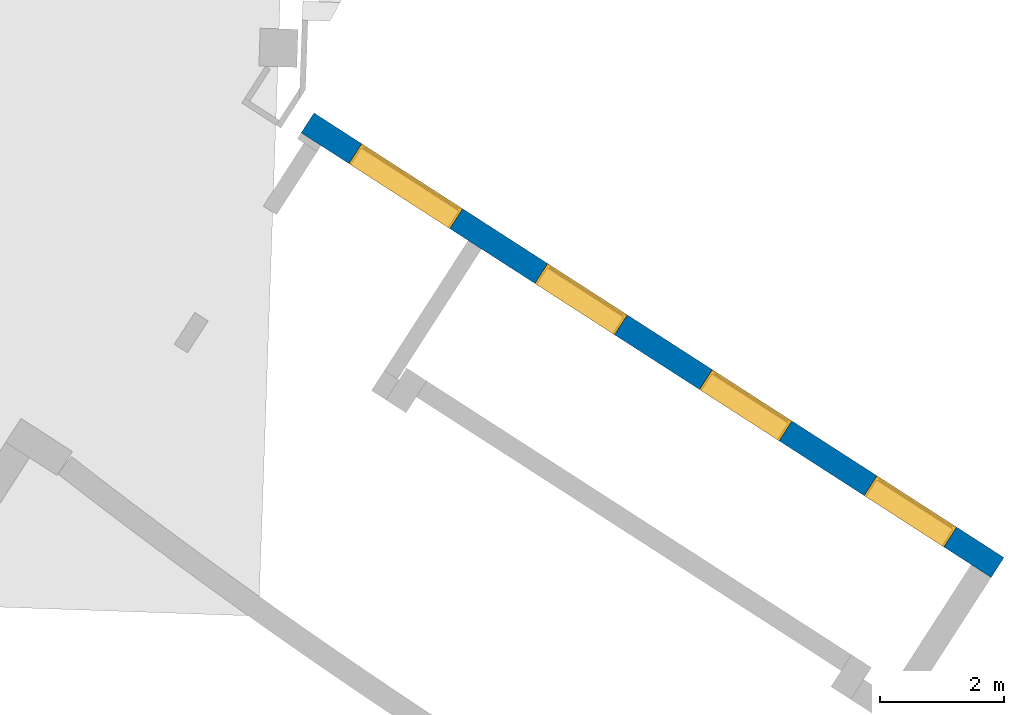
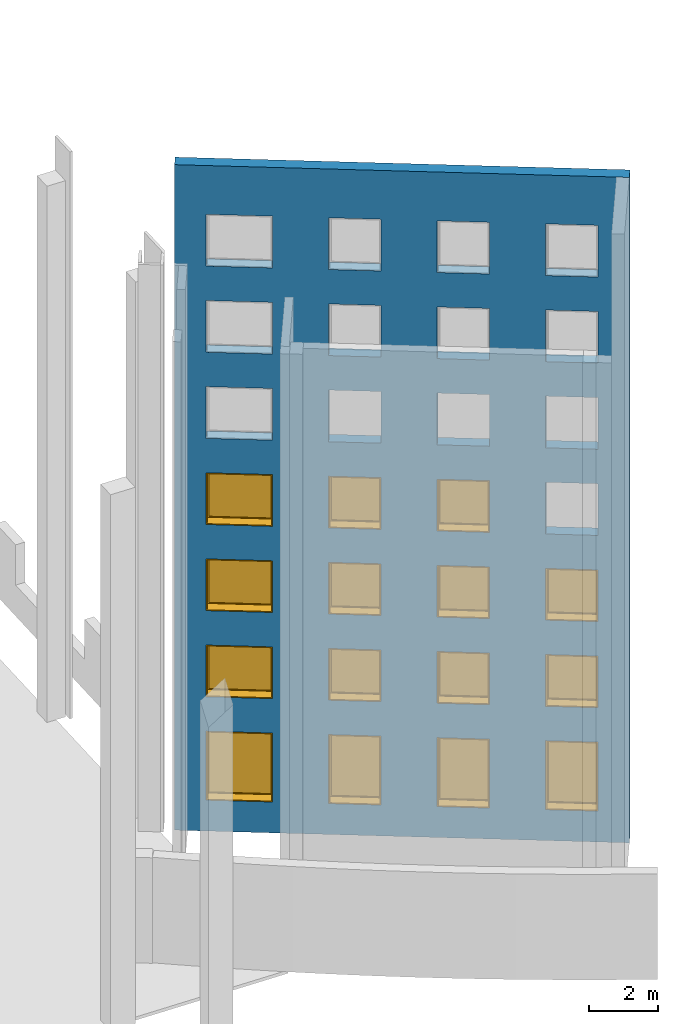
"""IFC2X3 building model written with IfcOpenShell, lengths in feet."""

from ifc_helpers import new_model, entity, si_unit, converted_unit, derived_unit, direction, frame, frame_2d, origin, place, context, subcontext, project, spatial, polyline, rectangle, outline, extrude, source, transform, mapped, material, material_list, layer, layer_set, layer_usage, type_object, type_shapes, element, fill, save


model = new_model("IFC2X3")

# Units and contexts
model_context = context("Model", 3, precision=0.0001, world=origin(), true_north=direction((0.999390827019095, 0.0348994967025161)))
body_context = subcontext(model_context, "Body", "Model", "MODEL_VIEW")
ifc_project = project(units=[converted_unit("LENGTHUNIT", "FOOT", entity("IfcRatioMeasure", 0.3048), si_unit("LENGTHUNIT", "METRE"), dimensions=[1, 0, 0, 0, 0, 0, 0]), converted_unit("AREAUNIT", "SQUARE FOOT", entity("IfcRatioMeasure", 0.09290304), si_unit("AREAUNIT", "SQUARE_METRE"), dimensions=[2, 0, 0, 0, 0, 0, 0]), converted_unit("VOLUMEUNIT", "CUBIC FOOT", entity("IfcRatioMeasure", 0.028316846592), si_unit("VOLUMEUNIT", "CUBIC_METRE"), dimensions=[3, 0, 0, 0, 0, 0, 0]), converted_unit("PLANEANGLEUNIT", "DEGREE", entity("IfcRatioMeasure", 0.0174532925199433), si_unit("PLANEANGLEUNIT", "RADIAN"), dimensions=[0, 0, 0, 0, 0, 0, 0]), si_unit("MASSUNIT", "GRAM", prefix="KILO"), si_unit("TIMEUNIT", "SECOND"), si_unit("FREQUENCYUNIT", "HERTZ"), si_unit("THERMODYNAMICTEMPERATUREUNIT", "DEGREE_CELSIUS"), derived_unit("THERMALTRANSMITTANCEUNIT", [(si_unit("MASSUNIT", "GRAM", prefix="KILO"), 1), (si_unit("THERMODYNAMICTEMPERATUREUNIT", "KELVIN"), -1), (si_unit("TIMEUNIT", "SECOND"), -3)]), derived_unit("VOLUMETRICFLOWRATEUNIT", [(si_unit("LENGTHUNIT", "METRE"), 3), (si_unit("TIMEUNIT", "SECOND"), -1)]), si_unit("ELECTRICCURRENTUNIT", "AMPERE"), si_unit("ELECTRICVOLTAGEUNIT", "VOLT"), si_unit("POWERUNIT", "WATT"), si_unit("FORCEUNIT", "NEWTON"), si_unit("ILLUMINANCEUNIT", "LUX"), si_unit("LUMINOUSFLUXUNIT", "LUMEN"), si_unit("LUMINOUSINTENSITYUNIT", "CANDELA"), derived_unit("USERDEFINED", [(si_unit("MASSUNIT", "GRAM", prefix="KILO"), -1), (si_unit("LENGTHUNIT", "METRE"), -2), (si_unit("TIMEUNIT", "SECOND"), 3), (si_unit("LUMINOUSFLUXUNIT", "LUMEN"), 1)]), derived_unit("LINEARVELOCITYUNIT", [(si_unit("LENGTHUNIT", "METRE"), 1), (si_unit("TIMEUNIT", "SECOND"), -1)]), si_unit("PRESSUREUNIT", "PASCAL"), derived_unit("USERDEFINED", [(si_unit("LENGTHUNIT", "METRE"), -2), (si_unit("MASSUNIT", "GRAM", prefix="KILO"), 1), (si_unit("TIMEUNIT", "SECOND"), -2)])], contexts=[model_context])

# Site, building, storey
site_placement = place(None, frame((892.518771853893, 322.38689265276, 0.00393700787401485), z_axis=(0.0, 0.0, 1.0), x_axis=(0.0348994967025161, 0.999390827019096, 0.0)))
site = spatial("IfcSite", under=ifc_project, at=site_placement, Name="Default", CompositionType="ELEMENT")
building_placement = place(site_placement, origin())
building = spatial("IfcBuilding", under=site, at=building_placement, CompositionType="ELEMENT")
storey_1_placement = place(building_placement, frame((0.0, 0.0, 544.75)))
storey_1 = spatial("IfcBuildingStorey", under=building, at=storey_1_placement, Name="Exist Garage - Ground Level", CompositionType="ELEMENT", Elevation=544.75)

# Wall, openings, windows
ifc_material_1 = material(Name="Masonry - Brick")
ifc_layer_1 = layer(ifc_material_1, 0.302083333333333)
ifc_material_2 = material(Name="Misc. Air Layers - Air Space")
ifc_layer_2 = layer(ifc_material_2, 0.114583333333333)
ifc_material_3 = material(Name="Concrete - Cast-in-Place Concrete_hatch surface")
ifc_layer_3 = layer(ifc_material_3, 0.833333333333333)
ifc_layer_set = layer_set([ifc_layer_1, ifc_layer_2, ifc_layer_3], Name="Basic Wall:(existing)Exterior - Brick on Conc - 1'-3\"")
ifc_layer_usage = layer_usage(ifc_layer_set, "AXIS2", "NEGATIVE", 0.625)
wall_type = type_object("IfcWallType", Name="Basic Wall:(existing)Exterior - Brick on Conc - 1'-3\"", PredefinedType="STANDARD", material=ifc_layer_set)
wall_placement = place(storey_1_placement, frame((-143.978651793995, 235.094064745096, 0.0), z_axis=(0.0, 0.0, 1.0), x_axis=(-0.512021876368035, -0.858972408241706, 0.0)))
wall = element("IfcWallStandardCase", 1, at=wall_placement, inside=storey_1, type_object=wall_type, material=ifc_layer_usage, Name="Basic Wall:(existing)Exterior - Brick on Conc - 1'-3\"", ObjectType="Basic Wall:(existing)Exterior - Brick on Conc - 1'-3\"", context=body_context, shape_type="SweptSolid", body=[
    extrude(rectangle(XDim=43.3020833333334, YDim=1.25, at=frame_2d((21.6510416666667, -9.43689570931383e-16), x_axis=(-1.0, 0.0))), origin(), (0.0, 0.0, 1.0), 77.25),
])
opening_1_placement = place(wall_placement, frame((3.0, -0.625, 3.58333333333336)))
opening_1 = element("IfcOpeningElement", 2, at=opening_1_placement, cuts=wall, Name="Fixed:6'4\" x 8'0\":1", ObjectType="Opening", context=body_context, shape_type="SweptSolid", body=[
    extrude(rectangle(XDim=8.00000000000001, YDim=6.33333333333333, at=frame_2d((4.00000000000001, 3.16666666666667), x_axis=(-1.0, 0.0))), frame((0.0, 0.0, 0.0), z_axis=(0.0, 1.0, 0.0), x_axis=(0.0, 0.0, 1.0)), (0.0, 0.0, 1.0), 1.25),
])
opening_2_placement = place(wall_placement, frame((14.6666666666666, -0.625000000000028, 3.58333333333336)))
opening_2 = element("IfcOpeningElement", 3, at=opening_2_placement, cuts=wall, Name="Fixed:5'0\" x 8'0\":1", ObjectType="Opening", context=body_context, shape_type="SweptSolid", body=[
    extrude(rectangle(XDim=8.00000000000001, YDim=5.0, at=frame_2d((4.00000000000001, 2.5), x_axis=(-1.0, 0.0))), frame((0.0, 0.0, 0.0), z_axis=(0.0, 1.0, 0.0), x_axis=(0.0, 0.0, 1.0)), (0.0, 0.0, 1.0), 1.25),
])
opening_3_placement = place(wall_placement, frame((25.0, -0.625000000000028, 3.58333333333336)))
opening_3 = element("IfcOpeningElement", 4, at=opening_3_placement, cuts=wall, Name="Fixed:5'0\" x 8'0\":1", ObjectType="Opening", context=body_context, shape_type="SweptSolid", body=[
    extrude(rectangle(XDim=8.00000000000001, YDim=5.0, at=frame_2d((4.00000000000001, 2.5), x_axis=(-1.0, 0.0))), frame((0.0, 0.0, 0.0), z_axis=(0.0, 1.0, 0.0), x_axis=(0.0, 0.0, 1.0)), (0.0, 0.0, 1.0), 1.25),
])
opening_4_placement = place(wall_placement, frame((35.3333333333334, -0.625000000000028, 3.58333333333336)))
opening_4 = element("IfcOpeningElement", 5, at=opening_4_placement, cuts=wall, Name="Fixed:5'0\" x 8'0\":1", ObjectType="Opening", context=body_context, shape_type="SweptSolid", body=[
    extrude(rectangle(XDim=8.00000000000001, YDim=5.0, at=frame_2d((4.00000000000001, 2.5), x_axis=(-1.0, 0.0))), frame((0.0, 0.0, 0.0), z_axis=(0.0, 1.0, 0.0), x_axis=(0.0, 0.0, 1.0)), (0.0, 0.0, 1.0), 1.25),
])
opening_5_placement = place(wall_placement, frame((3.0, -0.625, 15.5833333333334)))
opening_5 = element("IfcOpeningElement", 6, at=opening_5_placement, cuts=wall, Name="Fixed:6'4\" x 6'0\":1", ObjectType="Opening", context=body_context, shape_type="SweptSolid", body=[
    extrude(rectangle(XDim=6.0, YDim=6.33333333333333, at=frame_2d((3.0, 3.16666666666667), x_axis=(-1.0, 0.0))), frame((0.0, 0.0, 0.0), z_axis=(0.0, 1.0, 0.0), x_axis=(0.0, 0.0, 1.0)), (0.0, 0.0, 1.0), 1.25),
])
opening_6_placement = place(wall_placement, frame((14.6666666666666, -0.625000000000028, 15.5833333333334)))
opening_6 = element("IfcOpeningElement", 7, at=opening_6_placement, cuts=wall, Name="Fixed:5'0\" x 6'0\":1", ObjectType="Opening", context=body_context, shape_type="SweptSolid", body=[
    extrude(rectangle(XDim=6.0, YDim=5.0, at=frame_2d((3.0, 2.5), x_axis=(-1.0, 0.0))), frame((0.0, 0.0, 0.0), z_axis=(0.0, 1.0, 0.0), x_axis=(0.0, 0.0, 1.0)), (0.0, 0.0, 1.0), 1.25),
])
opening_7_placement = place(wall_placement, frame((25.0, -0.625000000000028, 15.5833333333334)))
opening_7 = element("IfcOpeningElement", 8, at=opening_7_placement, cuts=wall, Name="Fixed:5'0\" x 6'0\":1", ObjectType="Opening", context=body_context, shape_type="SweptSolid", body=[
    extrude(rectangle(XDim=6.0, YDim=5.0, at=frame_2d((3.0, 2.5), x_axis=(-1.0, 0.0))), frame((0.0, 0.0, 0.0), z_axis=(0.0, 1.0, 0.0), x_axis=(0.0, 0.0, 1.0)), (0.0, 0.0, 1.0), 1.25),
])
opening_8_placement = place(wall_placement, frame((35.3333333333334, -0.625000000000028, 15.5833333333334)))
opening_8 = element("IfcOpeningElement", 9, at=opening_8_placement, cuts=wall, Name="Fixed:5'0\" x 6'0\":1", ObjectType="Opening", context=body_context, shape_type="SweptSolid", body=[
    extrude(rectangle(XDim=6.0, YDim=5.0, at=frame_2d((3.0, 2.5), x_axis=(-1.0, 0.0))), frame((0.0, 0.0, 0.0), z_axis=(0.0, 1.0, 0.0), x_axis=(0.0, 0.0, 1.0)), (0.0, 0.0, 1.0), 1.25),
])
opening_9_placement = place(wall_placement, frame((3.0, -0.625, 25.5833333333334)))
opening_9 = element("IfcOpeningElement", 10, at=opening_9_placement, cuts=wall, Name="Fixed:6'4\" x 6'0\":1", ObjectType="Opening", context=body_context, shape_type="SweptSolid", body=[
    extrude(rectangle(XDim=6.0, YDim=6.33333333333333, at=frame_2d((3.0, 3.16666666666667), x_axis=(-1.0, 0.0))), frame((0.0, 0.0, 0.0), z_axis=(0.0, 1.0, 0.0), x_axis=(0.0, 0.0, 1.0)), (0.0, 0.0, 1.0), 1.25),
])
opening_10_placement = place(wall_placement, frame((14.6666666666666, -0.625000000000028, 25.5833333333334)))
opening_10 = element("IfcOpeningElement", 11, at=opening_10_placement, cuts=wall, Name="Fixed:5'0\" x 6'0\":1", ObjectType="Opening", context=body_context, shape_type="SweptSolid", body=[
    extrude(rectangle(XDim=6.0, YDim=5.0, at=frame_2d((3.0, 2.5), x_axis=(-1.0, 0.0))), frame((0.0, 0.0, 0.0), z_axis=(0.0, 1.0, 0.0), x_axis=(0.0, 0.0, 1.0)), (0.0, 0.0, 1.0), 1.25),
])
opening_11_placement = place(wall_placement, frame((25.0, -0.625000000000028, 25.5833333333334)))
opening_11 = element("IfcOpeningElement", 12, at=opening_11_placement, cuts=wall, Name="Fixed:5'0\" x 6'0\":1", ObjectType="Opening", context=body_context, shape_type="SweptSolid", body=[
    extrude(rectangle(XDim=6.0, YDim=5.0, at=frame_2d((3.0, 2.5), x_axis=(-1.0, 0.0))), frame((0.0, 0.0, 0.0), z_axis=(0.0, 1.0, 0.0), x_axis=(0.0, 0.0, 1.0)), (0.0, 0.0, 1.0), 1.25),
])
opening_12_placement = place(wall_placement, frame((35.3333333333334, -0.625000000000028, 25.5833333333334)))
opening_12 = element("IfcOpeningElement", 13, at=opening_12_placement, cuts=wall, Name="Fixed:5'0\" x 6'0\":1", ObjectType="Opening", context=body_context, shape_type="SweptSolid", body=[
    extrude(rectangle(XDim=6.0, YDim=5.0, at=frame_2d((3.0, 2.5), x_axis=(-1.0, 0.0))), frame((0.0, 0.0, 0.0), z_axis=(0.0, 1.0, 0.0), x_axis=(0.0, 0.0, 1.0)), (0.0, 0.0, 1.0), 1.25),
])
opening_13_placement = place(wall_placement, frame((3.0, -0.625, 35.5833333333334)))
opening_13 = element("IfcOpeningElement", 14, at=opening_13_placement, cuts=wall, Name="Fixed:6'4\" x 6'0\":1", ObjectType="Opening", context=body_context, shape_type="SweptSolid", body=[
    extrude(rectangle(XDim=6.0, YDim=6.33333333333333, at=frame_2d((3.0, 3.16666666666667), x_axis=(-1.0, 0.0))), frame((0.0, 0.0, 0.0), z_axis=(0.0, 1.0, 0.0), x_axis=(0.0, 0.0, 1.0)), (0.0, 0.0, 1.0), 1.25),
])
opening_14_placement = place(wall_placement, frame((14.6666666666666, -0.625000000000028, 35.5833333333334)))
opening_14 = element("IfcOpeningElement", 15, at=opening_14_placement, cuts=wall, Name="Fixed:5'0\" x 6'0\":1", ObjectType="Opening", context=body_context, shape_type="SweptSolid", body=[
    extrude(rectangle(XDim=6.0, YDim=5.0, at=frame_2d((3.0, 2.5), x_axis=(-1.0, 0.0))), frame((0.0, 0.0, 0.0), z_axis=(0.0, 1.0, 0.0), x_axis=(0.0, 0.0, 1.0)), (0.0, 0.0, 1.0), 1.25),
])
opening_15_placement = place(wall_placement, frame((25.0, -0.625000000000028, 35.5833333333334)))
opening_15 = element("IfcOpeningElement", 16, at=opening_15_placement, cuts=wall, Name="Fixed:5'0\" x 6'0\":1", ObjectType="Opening", context=body_context, shape_type="SweptSolid", body=[
    extrude(rectangle(XDim=6.0, YDim=5.0, at=frame_2d((3.0, 2.5), x_axis=(-1.0, 0.0))), frame((0.0, 0.0, 0.0), z_axis=(0.0, 1.0, 0.0), x_axis=(0.0, 0.0, 1.0)), (0.0, 0.0, 1.0), 1.25),
])
opening_16_placement = place(wall_placement, frame((35.3333333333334, -0.625000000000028, 35.5833333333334)))
element("IfcOpeningElement", 17, at=opening_16_placement, cuts=wall, Name="Fixed:5'0\" x 6'0\":1", ObjectType="Opening", context=body_context, shape_type="SweptSolid", body=[
    extrude(rectangle(XDim=6.0, YDim=5.0, at=frame_2d((3.0, 2.5), x_axis=(-1.0, 0.0))), frame((0.0, 0.0, 0.0), z_axis=(0.0, 1.0, 0.0), x_axis=(0.0, 0.0, 1.0)), (0.0, 0.0, 1.0), 1.25),
])
opening_17_placement = place(wall_placement, frame((3.0, -0.625, 45.5833333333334)))
element("IfcOpeningElement", 18, at=opening_17_placement, cuts=wall, Name="Fixed:6'4\" x 6'0\":1", ObjectType="Opening", context=body_context, shape_type="SweptSolid", body=[
    extrude(rectangle(XDim=6.0, YDim=6.33333333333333, at=frame_2d((3.0, 3.16666666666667), x_axis=(-1.0, 0.0))), frame((0.0, 0.0, 0.0), z_axis=(0.0, 1.0, 0.0), x_axis=(0.0, 0.0, 1.0)), (0.0, 0.0, 1.0), 1.25),
])
opening_18_placement = place(wall_placement, frame((14.6666666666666, -0.625000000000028, 45.5833333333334)))
element("IfcOpeningElement", 19, at=opening_18_placement, cuts=wall, Name="Fixed:5'0\" x 6'0\":1", ObjectType="Opening", context=body_context, shape_type="SweptSolid", body=[
    extrude(rectangle(XDim=6.0, YDim=5.0, at=frame_2d((3.0, 2.5), x_axis=(-1.0, 0.0))), frame((0.0, 0.0, 0.0), z_axis=(0.0, 1.0, 0.0), x_axis=(0.0, 0.0, 1.0)), (0.0, 0.0, 1.0), 1.25),
])
opening_19_placement = place(wall_placement, frame((25.0, -0.625000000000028, 45.5833333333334)))
element("IfcOpeningElement", 20, at=opening_19_placement, cuts=wall, Name="Fixed:5'0\" x 6'0\":1", ObjectType="Opening", context=body_context, shape_type="SweptSolid", body=[
    extrude(rectangle(XDim=6.0, YDim=5.0, at=frame_2d((3.0, 2.5), x_axis=(-1.0, 0.0))), frame((0.0, 0.0, 0.0), z_axis=(0.0, 1.0, 0.0), x_axis=(0.0, 0.0, 1.0)), (0.0, 0.0, 1.0), 1.25),
])
opening_20_placement = place(wall_placement, frame((35.3333333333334, -0.625000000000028, 45.5833333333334)))
element("IfcOpeningElement", 21, at=opening_20_placement, cuts=wall, Name="Fixed:5'0\" x 6'0\":1", ObjectType="Opening", context=body_context, shape_type="SweptSolid", body=[
    extrude(rectangle(XDim=6.0, YDim=5.0, at=frame_2d((3.0, 2.5), x_axis=(-1.0, 0.0))), frame((0.0, 0.0, 0.0), z_axis=(0.0, 1.0, 0.0), x_axis=(0.0, 0.0, 1.0)), (0.0, 0.0, 1.0), 1.25),
])
opening_21_placement = place(wall_placement, frame((3.0, -0.625, 55.5833333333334)))
element("IfcOpeningElement", 22, at=opening_21_placement, cuts=wall, Name="Fixed:6'4\" x 6'0\":1", ObjectType="Opening", context=body_context, shape_type="SweptSolid", body=[
    extrude(rectangle(XDim=6.0, YDim=6.33333333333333, at=frame_2d((3.0, 3.16666666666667), x_axis=(-1.0, 0.0))), frame((0.0, 0.0, 0.0), z_axis=(0.0, 1.0, 0.0), x_axis=(0.0, 0.0, 1.0)), (0.0, 0.0, 1.0), 1.25),
])
opening_22_placement = place(wall_placement, frame((14.6666666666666, -0.625000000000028, 55.5833333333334)))
element("IfcOpeningElement", 23, at=opening_22_placement, cuts=wall, Name="Fixed:5'0\" x 6'0\":1", ObjectType="Opening", context=body_context, shape_type="SweptSolid", body=[
    extrude(rectangle(XDim=6.0, YDim=5.0, at=frame_2d((3.0, 2.5), x_axis=(-1.0, 0.0))), frame((0.0, 0.0, 0.0), z_axis=(0.0, 1.0, 0.0), x_axis=(0.0, 0.0, 1.0)), (0.0, 0.0, 1.0), 1.25),
])
opening_23_placement = place(wall_placement, frame((25.0, -0.625000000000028, 55.5833333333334)))
element("IfcOpeningElement", 24, at=opening_23_placement, cuts=wall, Name="Fixed:5'0\" x 6'0\":1", ObjectType="Opening", context=body_context, shape_type="SweptSolid", body=[
    extrude(rectangle(XDim=6.0, YDim=5.0, at=frame_2d((3.0, 2.5), x_axis=(-1.0, 0.0))), frame((0.0, 0.0, 0.0), z_axis=(0.0, 1.0, 0.0), x_axis=(0.0, 0.0, 1.0)), (0.0, 0.0, 1.0), 1.25),
])
opening_24_placement = place(wall_placement, frame((35.3333333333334, -0.625000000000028, 55.5833333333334)))
element("IfcOpeningElement", 25, at=opening_24_placement, cuts=wall, Name="Fixed:5'0\" x 6'0\":1", ObjectType="Opening", context=body_context, shape_type="SweptSolid", body=[
    extrude(rectangle(XDim=6.0, YDim=5.0, at=frame_2d((3.0, 2.5), x_axis=(-1.0, 0.0))), frame((0.0, 0.0, 0.0), z_axis=(0.0, 1.0, 0.0), x_axis=(0.0, 0.0, 1.0)), (0.0, 0.0, 1.0), 1.25),
])
opening_25_placement = place(wall_placement, frame((3.0, -0.625, 65.5833333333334)))
element("IfcOpeningElement", 26, at=opening_25_placement, cuts=wall, Name="Fixed:6'4\" x 6'0\":1", ObjectType="Opening", context=body_context, shape_type="SweptSolid", body=[
    extrude(rectangle(XDim=6.0, YDim=6.33333333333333, at=frame_2d((3.0, 3.16666666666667), x_axis=(-1.0, 0.0))), frame((0.0, 0.0, 0.0), z_axis=(0.0, 1.0, 0.0), x_axis=(0.0, 0.0, 1.0)), (0.0, 0.0, 1.0), 1.25),
])
opening_26_placement = place(wall_placement, frame((14.6666666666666, -0.625000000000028, 65.5833333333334)))
element("IfcOpeningElement", 27, at=opening_26_placement, cuts=wall, Name="Fixed:5'0\" x 6'0\":1", ObjectType="Opening", context=body_context, shape_type="SweptSolid", body=[
    extrude(rectangle(XDim=6.0, YDim=5.0, at=frame_2d((3.0, 2.5), x_axis=(-1.0, 0.0))), frame((0.0, 0.0, 0.0), z_axis=(0.0, 1.0, 0.0), x_axis=(0.0, 0.0, 1.0)), (0.0, 0.0, 1.0), 1.25),
])
opening_27_placement = place(wall_placement, frame((25.0, -0.625000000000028, 65.5833333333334)))
element("IfcOpeningElement", 28, at=opening_27_placement, cuts=wall, Name="Fixed:5'0\" x 6'0\":1", ObjectType="Opening", context=body_context, shape_type="SweptSolid", body=[
    extrude(rectangle(XDim=6.0, YDim=5.0, at=frame_2d((3.0, 2.5), x_axis=(-1.0, 0.0))), frame((0.0, 0.0, 0.0), z_axis=(0.0, 1.0, 0.0), x_axis=(0.0, 0.0, 1.0)), (0.0, 0.0, 1.0), 1.25),
])
opening_28_placement = place(wall_placement, frame((35.3333333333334, -0.625000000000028, 65.5833333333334)))
element("IfcOpeningElement", 29, at=opening_28_placement, cuts=wall, Name="Fixed:5'0\" x 6'0\":1", ObjectType="Opening", context=body_context, shape_type="SweptSolid", body=[
    extrude(rectangle(XDim=6.0, YDim=5.0, at=frame_2d((3.0, 2.5), x_axis=(-1.0, 0.0))), frame((0.0, 0.0, 0.0), z_axis=(0.0, 1.0, 0.0), x_axis=(0.0, 0.0, 1.0)), (0.0, 0.0, 1.0), 1.25),
])
ifc_material_4 = material(Name="Glass")
ifc_material_5 = material(Name="Sash")
ifc_material_list_1 = material_list([ifc_material_4, ifc_material_5])
ifc_material_list_2 = material_list([ifc_material_4, ifc_material_5])
window_style_1 = type_object("IfcWindowStyle", Name="6'4\" x 8'0\"", ConstructionType="NOTDEFINED", OperationType="NOTDEFINED", ParameterTakesPrecedence=False, Sizeable=False, material=ifc_material_list_2)
shared_shape_1 = source(origin(), body_context, "Body", "SweptSolid", [
    extrude(rectangle(XDim=0.0416666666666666, YDim=5.91666666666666, at=frame_2d((5.55111512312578e-17, 0.0), x_axis=(1.0, 0.0))), frame((3.16666666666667, 1.11458333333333, 0.208333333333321), z_axis=(0.0, 0.0, 1.0), x_axis=(0.0, 1.0, 0.0)), (0.0, 0.0, 1.0), 7.58333333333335),
    extrude(outline(polyline([(-3.10416666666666, -3.93750000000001), (3.10416666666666, -3.93750000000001), (3.10416666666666, 3.93750000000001), (-3.10416666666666, 3.93750000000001), (-3.10416666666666, -3.93750000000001)]), holes=[polyline([(-2.95833333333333, -3.79166666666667), (-2.95833333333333, 3.79166666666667), (2.95833333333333, 3.79166666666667), (2.95833333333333, -3.79166666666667), (-2.95833333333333, -3.79166666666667)])]), frame((3.16666666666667, 1.04166666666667, 4.0), z_axis=(0.0, 1.0, 0.0), x_axis=(1.0, 0.0, 0.0)), (0.0, 0.0, 1.0), 0.145833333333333),
    extrude(outline(polyline([(-3.16666666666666, -4.0), (3.16666666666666, -4.0), (3.16666666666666, 4.0), (-3.16666666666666, 4.0), (-3.16666666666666, -4.0)]), holes=[polyline([(-3.0625, -3.89583333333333), (-3.0625, 3.89583333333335), (3.0625, 3.89583333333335), (3.0625, -3.89583333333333), (-3.0625, -3.89583333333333)])]), frame((3.16666666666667, 0.0, 4.0), z_axis=(0.0, 1.0, 0.0), x_axis=(1.0, 0.0, 0.0)), (0.0, 0.0, 1.0), 1.04166666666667),
    extrude(outline(polyline([(-4.0, -3.16666666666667), (4.0, -3.16666666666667), (4.0, 3.16666666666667), (-4.0, 3.16666666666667), (-4.0, -3.16666666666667)]), holes=[polyline([(-3.9375, -3.10416666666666), (-3.9375, 3.10416666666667), (3.93750000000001, 3.10416666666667), (3.93750000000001, -3.10416666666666), (-3.9375, -3.10416666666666)])]), frame((3.16666666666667, 1.04166666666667, 4.0), z_axis=(0.0, 1.0, 0.0), x_axis=(0.0, 0.0, -1.0)), (0.0, 0.0, 1.0), 0.208333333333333),
])
type_shapes(window_style_1, [shared_shape_1])
window_1_placement = place(opening_1_placement, origin())
window_1 = element("IfcWindow", 30, at=window_1_placement, inside=storey_1, type_object=window_style_1, material=ifc_material_list_1, Name="Fixed:6'4\" x 8'0\"", ObjectType="6'4\" x 8'0\"", OverallHeight=8.0, OverallWidth=6.33333333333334, context=body_context, shape_type="MappedRepresentation", body=[
    mapped(shared_shape_1, transform((0.0, 0.0, 0.0), scale=1.0)),
])
fill(opening_1, window_1)
ifc_material_list_3 = material_list([ifc_material_4, ifc_material_5])
ifc_material_list_4 = material_list([ifc_material_4, ifc_material_5])
window_style_2 = type_object("IfcWindowStyle", Name="5'0\" x 8'0\"", ConstructionType="NOTDEFINED", OperationType="NOTDEFINED", ParameterTakesPrecedence=False, Sizeable=False, material=ifc_material_list_4)
shared_shape_2 = source(origin(), body_context, "Body", "SweptSolid", [
    extrude(rectangle(XDim=0.0416666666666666, YDim=4.58333333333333, at=frame_2d((5.55111512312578e-17, 0.0), x_axis=(1.0, 0.0))), frame((2.5, 1.11458333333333, 0.208333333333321), z_axis=(0.0, 0.0, 1.0), x_axis=(0.0, 1.0, 0.0)), (0.0, 0.0, 1.0), 7.58333333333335),
    extrude(outline(polyline([(-2.4375, -3.93750000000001), (2.4375, -3.93750000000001), (2.4375, 3.93750000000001), (-2.4375, 3.93750000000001), (-2.4375, -3.93750000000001)]), holes=[polyline([(-2.29166666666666, -3.79166666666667), (-2.29166666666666, 3.79166666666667), (2.29166666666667, 3.79166666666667), (2.29166666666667, -3.79166666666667), (-2.29166666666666, -3.79166666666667)])]), frame((2.5, 1.04166666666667, 4.0), z_axis=(0.0, 1.0, 0.0), x_axis=(1.0, 0.0, 0.0)), (0.0, 0.0, 1.0), 0.145833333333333),
    extrude(outline(polyline([(-2.5, -4.0), (2.5, -4.0), (2.5, 4.0), (-2.5, 4.0), (-2.5, -4.0)]), holes=[polyline([(-2.39583333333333, -3.89583333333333), (-2.39583333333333, 3.89583333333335), (2.39583333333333, 3.89583333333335), (2.39583333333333, -3.89583333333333), (-2.39583333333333, -3.89583333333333)])]), frame((2.5, 0.0, 4.0), z_axis=(0.0, 1.0, 0.0), x_axis=(1.0, 0.0, 0.0)), (0.0, 0.0, 1.0), 1.04166666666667),
    extrude(outline(polyline([(-4.0, -2.5), (4.0, -2.5), (4.0, 2.5), (-4.0, 2.5), (-4.0, -2.5)]), holes=[polyline([(-3.9375, -2.4375), (-3.9375, 2.4375), (3.93750000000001, 2.4375), (3.93750000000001, -2.43749999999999), (-3.9375, -2.4375)])]), frame((2.5, 1.04166666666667, 4.0), z_axis=(0.0, 1.0, 0.0), x_axis=(0.0, 0.0, -1.0)), (0.0, 0.0, 1.0), 0.208333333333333),
])
type_shapes(window_style_2, [shared_shape_2])
window_2_placement = place(opening_2_placement, origin())
window_2 = element("IfcWindow", 31, at=window_2_placement, inside=storey_1, type_object=window_style_2, material=ifc_material_list_3, Name="Fixed:5'0\" x 8'0\"", ObjectType="5'0\" x 8'0\"", OverallHeight=8.0, OverallWidth=5.0, context=body_context, shape_type="MappedRepresentation", body=[
    mapped(shared_shape_2, transform((0.0, 0.0, 0.0), scale=1.0)),
])
fill(opening_2, window_2)
ifc_material_list_5 = material_list([ifc_material_4, ifc_material_5])
window_3_placement = place(opening_3_placement, origin())
window_3 = element("IfcWindow", 32, at=window_3_placement, inside=storey_1, type_object=window_style_2, material=ifc_material_list_5, Name="Fixed:5'0\" x 8'0\"", ObjectType="5'0\" x 8'0\"", OverallHeight=8.0, OverallWidth=5.0, context=body_context, shape_type="MappedRepresentation", body=[
    mapped(shared_shape_2, transform((0.0, 0.0, 0.0), scale=1.0)),
])
fill(opening_3, window_3)
ifc_material_list_6 = material_list([ifc_material_4, ifc_material_5])
window_4_placement = place(opening_4_placement, origin())
window_4 = element("IfcWindow", 33, at=window_4_placement, inside=storey_1, type_object=window_style_2, material=ifc_material_list_6, Name="Fixed:5'0\" x 8'0\"", ObjectType="5'0\" x 8'0\"", OverallHeight=8.0, OverallWidth=5.0, context=body_context, shape_type="MappedRepresentation", body=[
    mapped(shared_shape_2, transform((0.0, 0.0, 0.0), scale=1.0)),
])
fill(opening_4, window_4)

# Storey
storey_2_placement = place(building_placement, frame((0.0, 0.0, 557.0)))
storey_2 = spatial("IfcBuildingStorey", under=building, at=storey_2_placement, Name="Existing Garage - 1st Level", CompositionType="ELEMENT", Elevation=557.0)

# Window
ifc_material_list_7 = material_list([ifc_material_4, ifc_material_5])
ifc_material_list_8 = material_list([ifc_material_4, ifc_material_5])
window_style_3 = type_object("IfcWindowStyle", Name="6'4\" x 6'0\"", ConstructionType="NOTDEFINED", OperationType="NOTDEFINED", ParameterTakesPrecedence=False, Sizeable=False, material=ifc_material_list_8)
shared_shape_3 = source(origin(), body_context, "Body", "SweptSolid", [
    extrude(rectangle(XDim=0.0416666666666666, YDim=5.91666666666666, at=frame_2d((5.55111512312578e-17, 0.0), x_axis=(1.0, 0.0))), frame((3.16666666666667, 1.11458333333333, 0.208333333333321), z_axis=(0.0, 0.0, 1.0), x_axis=(0.0, 1.0, 0.0)), (0.0, 0.0, 1.0), 5.58333333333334),
    extrude(outline(polyline([(-3.10416666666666, -2.93750000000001), (3.10416666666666, -2.93750000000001), (3.10416666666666, 2.93750000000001), (-3.10416666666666, 2.93750000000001), (-3.10416666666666, -2.93750000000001)]), holes=[polyline([(-2.95833333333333, -2.79166666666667), (-2.95833333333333, 2.79166666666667), (2.95833333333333, 2.79166666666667), (2.95833333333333, -2.79166666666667), (-2.95833333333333, -2.79166666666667)])]), frame((3.16666666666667, 1.04166666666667, 3.0), z_axis=(0.0, 1.0, 0.0), x_axis=(1.0, 0.0, 0.0)), (0.0, 0.0, 1.0), 0.145833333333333),
    extrude(outline(polyline([(-3.16666666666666, -3.0), (3.16666666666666, -3.0), (3.16666666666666, 3.0), (-3.16666666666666, 3.0), (-3.16666666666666, -3.0)]), holes=[polyline([(-3.0625, -2.89583333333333), (-3.0625, 2.89583333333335), (3.0625, 2.89583333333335), (3.0625, -2.89583333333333), (-3.0625, -2.89583333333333)])]), frame((3.16666666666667, 0.0, 3.0), z_axis=(0.0, 1.0, 0.0), x_axis=(1.0, 0.0, 0.0)), (0.0, 0.0, 1.0), 1.04166666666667),
    extrude(outline(polyline([(-3.0, -3.16666666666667), (3.0, -3.16666666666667), (3.0, 3.16666666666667), (-3.0, 3.16666666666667), (-3.0, -3.16666666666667)]), holes=[polyline([(-2.9375, -3.10416666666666), (-2.9375, 3.10416666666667), (2.93750000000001, 3.10416666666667), (2.93750000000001, -3.10416666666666), (-2.9375, -3.10416666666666)])]), frame((3.16666666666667, 1.04166666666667, 3.0), z_axis=(0.0, 1.0, 0.0), x_axis=(0.0, 0.0, -1.0)), (0.0, 0.0, 1.0), 0.208333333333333),
])
type_shapes(window_style_3, [shared_shape_3])
window_5_placement = place(opening_5_placement, origin())
window_5 = element("IfcWindow", 34, at=window_5_placement, inside=storey_2, type_object=window_style_3, material=ifc_material_list_7, Name="Fixed:6'4\" x 6'0\"", ObjectType="6'4\" x 6'0\"", OverallHeight=6.0, OverallWidth=6.33333333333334, context=body_context, shape_type="MappedRepresentation", body=[
    mapped(shared_shape_3, transform((0.0, 0.0, 0.0), scale=1.0)),
])

fill(opening_5, window_5)

# Storey
storey_3_placement = place(building_placement, frame((0.0, 0.0, 570.16666666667)))
storey_3 = spatial("IfcBuildingStorey", under=building, at=storey_3_placement, Name="2nd Floor", CompositionType="ELEMENT", Elevation=570.16666666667)

# Window
ifc_material_list_9 = material_list([ifc_material_4, ifc_material_5])
window_6_placement = place(opening_9_placement, origin())
window_6 = element("IfcWindow", 35, at=window_6_placement, inside=storey_3, type_object=window_style_3, material=ifc_material_list_9, Name="Fixed:6'4\" x 6'0\"", ObjectType="6'4\" x 6'0\"", OverallHeight=6.0, OverallWidth=6.33333333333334, context=body_context, shape_type="MappedRepresentation", body=[
    mapped(shared_shape_3, transform((0.0, 0.0, 0.0), scale=1.0)),
])

fill(opening_9, window_6)

# Storey
storey_4_placement = place(building_placement, frame((0.0, 0.0, 577.0)))
storey_4 = spatial("IfcBuildingStorey", under=building, at=storey_4_placement, Name="Existing Garage - 3rd Level", CompositionType="ELEMENT", Elevation=577.0)

# Window
ifc_material_list_10 = material_list([ifc_material_4, ifc_material_5])
window_7_placement = place(opening_13_placement, origin())
window_7 = element("IfcWindow", 36, at=window_7_placement, inside=storey_4, type_object=window_style_3, material=ifc_material_list_10, Name="Fixed:6'4\" x 6'0\"", ObjectType="6'4\" x 6'0\"", OverallHeight=6.0, OverallWidth=6.33333333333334, context=body_context, shape_type="MappedRepresentation", body=[
    mapped(shared_shape_3, transform((0.0, 0.0, 0.0), scale=1.0)),
])

fill(opening_13, window_7)

ifc_material_list_11 = material_list([ifc_material_4, ifc_material_5])
ifc_material_list_12 = material_list([ifc_material_4, ifc_material_5])
window_style_4 = type_object("IfcWindowStyle", Name="5'0\" x 6'0\"", ConstructionType="NOTDEFINED", OperationType="NOTDEFINED", ParameterTakesPrecedence=False, Sizeable=False, material=ifc_material_list_12)
shared_shape_4 = source(origin(), body_context, "Body", "SweptSolid", [
    extrude(rectangle(XDim=0.0416666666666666, YDim=4.58333333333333, at=frame_2d((5.55111512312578e-17, 0.0), x_axis=(1.0, 0.0))), frame((2.5, 1.11458333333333, 0.208333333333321), z_axis=(0.0, 0.0, 1.0), x_axis=(0.0, 1.0, 0.0)), (0.0, 0.0, 1.0), 5.58333333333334),
    extrude(outline(polyline([(-2.4375, -2.93750000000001), (2.4375, -2.93750000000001), (2.4375, 2.93750000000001), (-2.4375, 2.93750000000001), (-2.4375, -2.93750000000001)]), holes=[polyline([(-2.29166666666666, -2.79166666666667), (-2.29166666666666, 2.79166666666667), (2.29166666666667, 2.79166666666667), (2.29166666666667, -2.79166666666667), (-2.29166666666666, -2.79166666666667)])]), frame((2.5, 1.04166666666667, 3.0), z_axis=(0.0, 1.0, 0.0), x_axis=(1.0, 0.0, 0.0)), (0.0, 0.0, 1.0), 0.145833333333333),
    extrude(outline(polyline([(-2.5, -3.0), (2.5, -3.0), (2.5, 3.0), (-2.5, 3.0), (-2.5, -3.0)]), holes=[polyline([(-2.39583333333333, -2.89583333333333), (-2.39583333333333, 2.89583333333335), (2.39583333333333, 2.89583333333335), (2.39583333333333, -2.89583333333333), (-2.39583333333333, -2.89583333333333)])]), frame((2.5, 0.0, 3.0), z_axis=(0.0, 1.0, 0.0), x_axis=(1.0, 0.0, 0.0)), (0.0, 0.0, 1.0), 1.04166666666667),
    extrude(outline(polyline([(-3.0, -2.5), (3.0, -2.5), (3.0, 2.5), (-3.0, 2.5), (-3.0, -2.5)]), holes=[polyline([(-2.9375, -2.4375), (-2.9375, 2.4375), (2.93750000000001, 2.4375), (2.93750000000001, -2.43749999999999), (-2.9375, -2.4375)])]), frame((2.5, 1.04166666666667, 3.0), z_axis=(0.0, 1.0, 0.0), x_axis=(0.0, 0.0, -1.0)), (0.0, 0.0, 1.0), 0.208333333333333),
])
type_shapes(window_style_4, [shared_shape_4])
window_8_placement = place(opening_6_placement, origin())
window_8 = element("IfcWindow", 37, at=window_8_placement, inside=storey_2, type_object=window_style_4, material=ifc_material_list_11, Name="Fixed:5'0\" x 6'0\"", ObjectType="5'0\" x 6'0\"", OverallHeight=6.0, OverallWidth=5.0, context=body_context, shape_type="MappedRepresentation", body=[
    mapped(shared_shape_4, transform((0.0, 0.0, 0.0), scale=1.0)),
])

fill(opening_6, window_8)

ifc_material_list_13 = material_list([ifc_material_4, ifc_material_5])
window_9_placement = place(opening_7_placement, origin())
window_9 = element("IfcWindow", 38, at=window_9_placement, inside=storey_2, type_object=window_style_4, material=ifc_material_list_13, Name="Fixed:5'0\" x 6'0\"", ObjectType="5'0\" x 6'0\"", OverallHeight=6.0, OverallWidth=5.0, context=body_context, shape_type="MappedRepresentation", body=[
    mapped(shared_shape_4, transform((0.0, 0.0, 0.0), scale=1.0)),
])

fill(opening_7, window_9)

ifc_material_list_14 = material_list([ifc_material_4, ifc_material_5])
window_10_placement = place(opening_8_placement, origin())
window_10 = element("IfcWindow", 39, at=window_10_placement, inside=storey_2, type_object=window_style_4, material=ifc_material_list_14, Name="Fixed:5'0\" x 6'0\"", ObjectType="5'0\" x 6'0\"", OverallHeight=6.0, OverallWidth=5.0, context=body_context, shape_type="MappedRepresentation", body=[
    mapped(shared_shape_4, transform((0.0, 0.0, 0.0), scale=1.0)),
])

fill(opening_8, window_10)

ifc_material_list_15 = material_list([ifc_material_4, ifc_material_5])
window_11_placement = place(opening_10_placement, origin())
window_11 = element("IfcWindow", 40, at=window_11_placement, inside=storey_3, type_object=window_style_4, material=ifc_material_list_15, Name="Fixed:5'0\" x 6'0\"", ObjectType="5'0\" x 6'0\"", OverallHeight=6.0, OverallWidth=5.0, context=body_context, shape_type="MappedRepresentation", body=[
    mapped(shared_shape_4, transform((0.0, 0.0, 0.0), scale=1.0)),
])

fill(opening_10, window_11)

ifc_material_list_16 = material_list([ifc_material_4, ifc_material_5])
window_12_placement = place(opening_11_placement, origin())
window_12 = element("IfcWindow", 41, at=window_12_placement, inside=storey_3, type_object=window_style_4, material=ifc_material_list_16, Name="Fixed:5'0\" x 6'0\"", ObjectType="5'0\" x 6'0\"", OverallHeight=6.0, OverallWidth=5.0, context=body_context, shape_type="MappedRepresentation", body=[
    mapped(shared_shape_4, transform((0.0, 0.0, 0.0), scale=1.0)),
])

fill(opening_11, window_12)

ifc_material_list_17 = material_list([ifc_material_4, ifc_material_5])
window_13_placement = place(opening_12_placement, origin())
window_13 = element("IfcWindow", 42, at=window_13_placement, inside=storey_3, type_object=window_style_4, material=ifc_material_list_17, Name="Fixed:5'0\" x 6'0\"", ObjectType="5'0\" x 6'0\"", OverallHeight=6.0, OverallWidth=5.0, context=body_context, shape_type="MappedRepresentation", body=[
    mapped(shared_shape_4, transform((0.0, 0.0, 0.0), scale=1.0)),
])

fill(opening_12, window_13)

ifc_material_list_18 = material_list([ifc_material_4, ifc_material_5])
window_14_placement = place(opening_14_placement, origin())
window_14 = element("IfcWindow", 43, at=window_14_placement, inside=storey_4, type_object=window_style_4, material=ifc_material_list_18, Name="Fixed:5'0\" x 6'0\"", ObjectType="5'0\" x 6'0\"", OverallHeight=6.0, OverallWidth=5.0, context=body_context, shape_type="MappedRepresentation", body=[
    mapped(shared_shape_4, transform((0.0, 0.0, 0.0), scale=1.0)),
])

fill(opening_14, window_14)

ifc_material_list_19 = material_list([ifc_material_4, ifc_material_5])
window_15_placement = place(opening_15_placement, origin())
window_15 = element("IfcWindow", 44, at=window_15_placement, inside=storey_4, type_object=window_style_4, material=ifc_material_list_19, Name="Fixed:5'0\" x 6'0\"", ObjectType="5'0\" x 6'0\"", OverallHeight=6.0, OverallWidth=5.0, context=body_context, shape_type="MappedRepresentation", body=[
    mapped(shared_shape_4, transform((0.0, 0.0, 0.0), scale=1.0)),
])

fill(opening_15, window_15)

save(model, "model.ifc")
